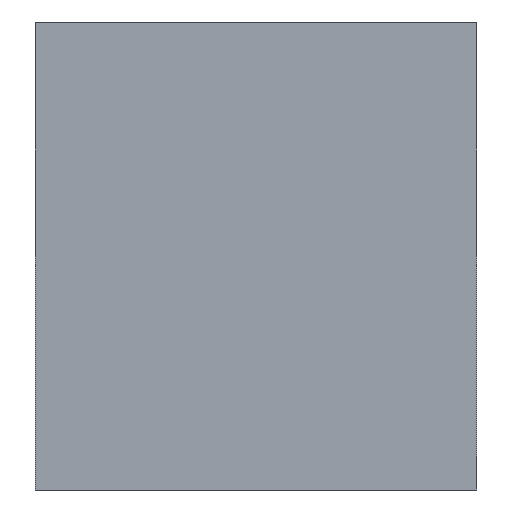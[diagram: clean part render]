
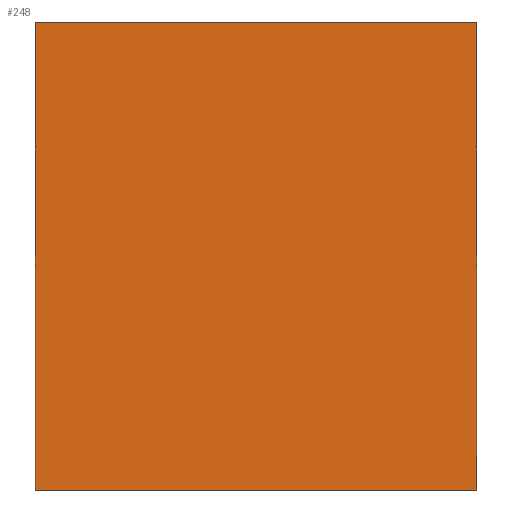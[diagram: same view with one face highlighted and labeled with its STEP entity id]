
A CAD part, left-side view. The second image highlights one B-rep face of the part: STEP entity #248.
In plain terms, the highlighted planar face has unit normal (-1, 0, 0).
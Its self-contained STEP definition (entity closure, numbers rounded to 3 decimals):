
#26=FACE_OUTER_BOUND('',#40,.T.);
#40=EDGE_LOOP('',(#177,#178,#179,#180));
#70=LINE('',#373,#94);
#72=LINE('',#377,#96);
#73=LINE('',#379,#97);
#74=LINE('',#380,#98);
#94=VECTOR('',#296,10.);
#96=VECTOR('',#300,10.);
#97=VECTOR('',#301,10.);
#98=VECTOR('',#302,10.);
#119=VERTEX_POINT('',#370);
#120=VERTEX_POINT('',#372);
#121=VERTEX_POINT('',#376);
#122=VERTEX_POINT('',#378);
#141=EDGE_CURVE('',#120,#119,#70,.T.);
#143=EDGE_CURVE('',#119,#121,#72,.T.);
#144=EDGE_CURVE('',#122,#121,#73,.T.);
#145=EDGE_CURVE('',#120,#122,#74,.T.);
#177=ORIENTED_EDGE('',*,*,#141,.T.);
#178=ORIENTED_EDGE('',*,*,#143,.T.);
#179=ORIENTED_EDGE('',*,*,#144,.F.);
#180=ORIENTED_EDGE('',*,*,#145,.F.);
#240=PLANE('',#265);
#248=ADVANCED_FACE('',(#26),#240,.T.);
#265=AXIS2_PLACEMENT_3D('',#375,#298,#299);
#296=DIRECTION('',(0.,-1.,0.));
#298=DIRECTION('center_axis',(-1.,0.,0.));
#299=DIRECTION('ref_axis',(0.,-1.,0.));
#300=DIRECTION('',(0.,0.,1.));
#301=DIRECTION('',(0.,-1.,0.));
#302=DIRECTION('',(0.,0.,1.));
#370=CARTESIAN_POINT('',(-15.75,0.,32.45));
#372=CARTESIAN_POINT('',(-15.75,9.,32.45));
#373=CARTESIAN_POINT('',(-15.75,6.75,32.45));
#375=CARTESIAN_POINT('Origin',(-15.75,9.,31.7));
#376=CARTESIAN_POINT('',(-15.75,0.,42.));
#377=CARTESIAN_POINT('',(-15.75,0.,31.7));
#378=CARTESIAN_POINT('',(-15.75,9.,42.));
#379=CARTESIAN_POINT('',(-15.75,9.,42.));
#380=CARTESIAN_POINT('',(-15.75,9.,31.7));
